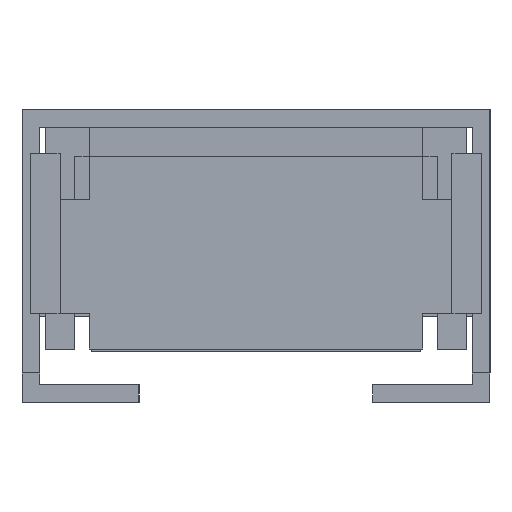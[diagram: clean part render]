
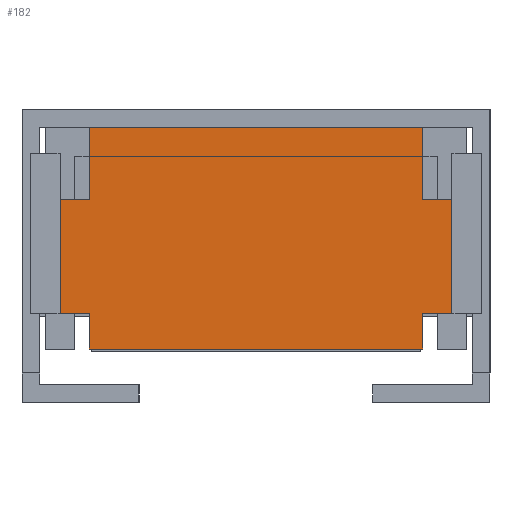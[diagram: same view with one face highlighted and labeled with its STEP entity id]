
A CAD part, left-side view. The second image highlights one B-rep face of the part: STEP entity #182.
In plain terms, the highlighted planar face has unit normal (-1, 0, 0).
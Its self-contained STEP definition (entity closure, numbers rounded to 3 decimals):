
#182 = ADVANCED_FACE( '', ( #417 ), #418, .F. );
#417 = FACE_OUTER_BOUND( '', #713, .T. );
#418 = PLANE( '', #714 );
#713 = EDGE_LOOP( '', ( #1078, #1079, #1080, #1081, #1082, #1083, #1084, #1085, #1086, #1087, #1088, #1089 ) );
#714 = AXIS2_PLACEMENT_3D( '', #1090, #1091, #1092 );
#1078 = ORIENTED_EDGE( '', *, *, #1983, .F. );
#1079 = ORIENTED_EDGE( '', *, *, #1984, .F. );
#1080 = ORIENTED_EDGE( '', *, *, #1985, .F. );
#1081 = ORIENTED_EDGE( '', *, *, #1964, .T. );
#1082 = ORIENTED_EDGE( '', *, *, #1986, .F. );
#1083 = ORIENTED_EDGE( '', *, *, #1987, .T. );
#1084 = ORIENTED_EDGE( '', *, *, #1988, .T. );
#1085 = ORIENTED_EDGE( '', *, *, #1989, .T. );
#1086 = ORIENTED_EDGE( '', *, *, #1990, .T. );
#1087 = ORIENTED_EDGE( '', *, *, #1991, .F. );
#1088 = ORIENTED_EDGE( '', *, *, #1992, .T. );
#1089 = ORIENTED_EDGE( '', *, *, #1993, .F. );
#1090 = CARTESIAN_POINT( '', ( -6., 14.25, -18.95 ) );
#1091 = DIRECTION( '', ( 1., 0., 0. ) );
#1092 = DIRECTION( '', ( 0., 0., -1. ) );
#1964 = EDGE_CURVE( '', #2390, #2387, #2391, .T. );
#1983 = EDGE_CURVE( '', #2423, #2424, #2425, .T. );
#1984 = EDGE_CURVE( '', #2426, #2423, #2427, .T. );
#1985 = EDGE_CURVE( '', #2390, #2426, #2428, .T. );
#1986 = EDGE_CURVE( '', #2429, #2387, #2430, .T. );
#1987 = EDGE_CURVE( '', #2429, #2431, #2432, .T. );
#1988 = EDGE_CURVE( '', #2431, #2433, #2434, .T. );
#1989 = EDGE_CURVE( '', #2433, #2435, #2436, .T. );
#1990 = EDGE_CURVE( '', #2435, #2437, #2438, .T. );
#1991 = EDGE_CURVE( '', #2439, #2437, #2440, .T. );
#1992 = EDGE_CURVE( '', #2439, #2441, #2442, .T. );
#1993 = EDGE_CURVE( '', #2424, #2441, #2443, .T. );
#2387 = VERTEX_POINT( '', #2997 );
#2390 = VERTEX_POINT( '', #3001 );
#2391 = LINE( '', #3002, #3003 );
#2423 = VERTEX_POINT( '', #3050 );
#2424 = VERTEX_POINT( '', #3051 );
#2425 = LINE( '', #3052, #3053 );
#2426 = VERTEX_POINT( '', #3054 );
#2427 = LINE( '', #3055, #3056 );
#2428 = LINE( '', #3057, #3058 );
#2429 = VERTEX_POINT( '', #3059 );
#2430 = LINE( '', #3060, #3061 );
#2431 = VERTEX_POINT( '', #3062 );
#2432 = LINE( '', #3063, #3064 );
#2433 = VERTEX_POINT( '', #3065 );
#2434 = LINE( '', #3066, #3067 );
#2435 = VERTEX_POINT( '', #3068 );
#2436 = LINE( '', #3069, #3070 );
#2437 = VERTEX_POINT( '', #3071 );
#2438 = LINE( '', #3072, #3073 );
#2439 = VERTEX_POINT( '', #3074 );
#2440 = LINE( '', #3075, #3076 );
#2441 = VERTEX_POINT( '', #3077 );
#2442 = LINE( '', #3078, #3079 );
#2443 = LINE( '', #3080, #3081 );
#2997 = CARTESIAN_POINT( '', ( -6., 14.25, -15.9 ) );
#3001 = CARTESIAN_POINT( '', ( -6., 16.75, -15.9 ) );
#3002 = CARTESIAN_POINT( '', ( -6., 16.75, -15.9 ) );
#3003 = VECTOR( '', #3741, 1000. );
#3050 = CARTESIAN_POINT( '', ( -6., 14.25, -6.2 ) );
#3051 = CARTESIAN_POINT( '', ( -6., 14.25, 0. ) );
#3052 = CARTESIAN_POINT( '', ( -6., 14.25, -18.95 ) );
#3053 = VECTOR( '', #3757, 1000. );
#3054 = CARTESIAN_POINT( '', ( -6., 16.75, -6.2 ) );
#3055 = CARTESIAN_POINT( '', ( -6., 16.75, -6.2 ) );
#3056 = VECTOR( '', #3758, 1000. );
#3057 = CARTESIAN_POINT( '', ( -6., 16.75, -15.9 ) );
#3058 = VECTOR( '', #3759, 1000. );
#3059 = CARTESIAN_POINT( '', ( -6., 14.25, -18.95 ) );
#3060 = CARTESIAN_POINT( '', ( -6., 14.25, -18.95 ) );
#3061 = VECTOR( '', #3760, 1000. );
#3062 = CARTESIAN_POINT( '', ( -6., -14.25, -18.95 ) );
#3063 = CARTESIAN_POINT( '', ( -6., 14.25, -18.95 ) );
#3064 = VECTOR( '', #3761, 1000. );
#3065 = CARTESIAN_POINT( '', ( -6., -14.25, -15.9 ) );
#3066 = CARTESIAN_POINT( '', ( -6., -14.25, -18.95 ) );
#3067 = VECTOR( '', #3762, 1000. );
#3068 = CARTESIAN_POINT( '', ( -6., -16.75, -15.9 ) );
#3069 = CARTESIAN_POINT( '', ( -6., 16.75, -15.9 ) );
#3070 = VECTOR( '', #3763, 1000. );
#3071 = CARTESIAN_POINT( '', ( -6., -16.75, -6.2 ) );
#3072 = CARTESIAN_POINT( '', ( -6., -16.75, -15.9 ) );
#3073 = VECTOR( '', #3764, 1000. );
#3074 = CARTESIAN_POINT( '', ( -6., -14.25, -6.2 ) );
#3075 = CARTESIAN_POINT( '', ( -6., 16.75, -6.2 ) );
#3076 = VECTOR( '', #3765, 1000. );
#3077 = CARTESIAN_POINT( '', ( -6., -14.25, 0. ) );
#3078 = CARTESIAN_POINT( '', ( -6., -14.25, -18.95 ) );
#3079 = VECTOR( '', #3766, 1000. );
#3080 = CARTESIAN_POINT( '', ( -6., 14.25, 0. ) );
#3081 = VECTOR( '', #3767, 1000. );
#3741 = DIRECTION( '', ( 0., -1., 0. ) );
#3757 = DIRECTION( '', ( 0., 0., 1. ) );
#3758 = DIRECTION( '', ( 0., -1., 0. ) );
#3759 = DIRECTION( '', ( 0., 0., 1. ) );
#3760 = DIRECTION( '', ( 0., 0., 1. ) );
#3761 = DIRECTION( '', ( 0., -1., 0. ) );
#3762 = DIRECTION( '', ( 0., 0., 1. ) );
#3763 = DIRECTION( '', ( 0., -1., 0. ) );
#3764 = DIRECTION( '', ( 0., 0., 1. ) );
#3765 = DIRECTION( '', ( 0., -1., 0. ) );
#3766 = DIRECTION( '', ( 0., 0., 1. ) );
#3767 = DIRECTION( '', ( 0., -1., 0. ) );
